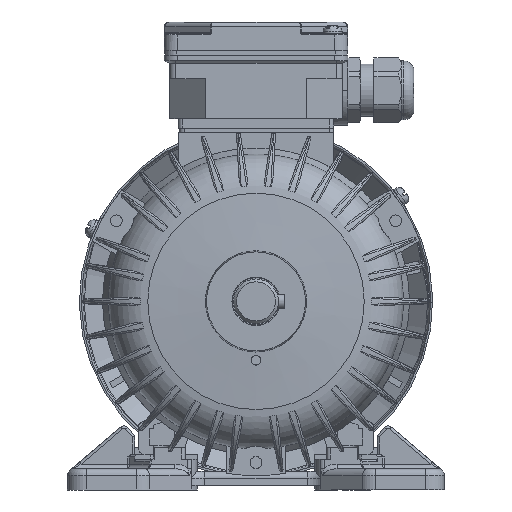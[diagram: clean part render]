
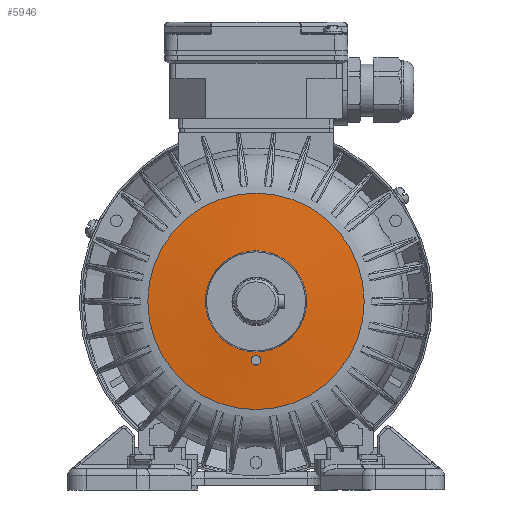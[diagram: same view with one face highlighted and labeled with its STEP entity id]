
A CAD part, left-side view. The second image highlights one B-rep face of the part: STEP entity #5946.
In plain terms, the highlighted conical face has half-angle 85.5 degrees and reference radius 21.472 mm.
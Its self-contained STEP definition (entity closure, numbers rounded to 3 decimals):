
#5946 = ADVANCED_FACE( '', ( #13087, #13088, #13089 ), #13090, .T. );
#13087 = FACE_OUTER_BOUND( '', #36865, .T. );
#13088 = FACE_BOUND( '', #36866, .T. );
#13089 = FACE_BOUND( '', #36867, .T. );
#13090 = CONICAL_SURFACE( '', #36868, 21.472, 1.492 );
#36865 = EDGE_LOOP( '', ( #71741 ) );
#36866 = EDGE_LOOP( '', ( #71742 ) );
#36867 = EDGE_LOOP( '', ( #71743 ) );
#36868 = AXIS2_PLACEMENT_3D( '', #71744, #71745, #71746 );
#71741 = ORIENTED_EDGE( '', *, *, #88188, .T. );
#71742 = ORIENTED_EDGE( '', *, *, #92704, .F. );
#71743 = ORIENTED_EDGE( '', *, *, #91015, .T. );
#71744 = CARTESIAN_POINT( '', ( 0., 6., 0. ) );
#71745 = DIRECTION( '', ( 0., 1., 0. ) );
#71746 = DIRECTION( '', ( 0., 0., 1. ) );
#88188 = EDGE_CURVE( '', #100808, #100808, #100809, .T. );
#91015 = EDGE_CURVE( '', #105494, #105494, #105495, .T. );
#92704 = EDGE_CURVE( '', #107996, #107996, #107997, .T. );
#100808 = VERTEX_POINT( '', #125872 );
#100809 = CIRCLE( '', #125873, 45.912 );
#105494 = VERTEX_POINT( '', #142784 );
#105495 = B_SPLINE_CURVE_WITH_KNOTS( '', 3, ( #142785, #142786, #142787, #142788, #142789, #142790, #142791, #142792, #142793, #142794, #142795, #142796, #142797, #142798, #142799, #142800, #142801, #142802, #142803, #142804, #142805, #142806, #142807, #142808, #142809, #142810, #142811, #142812, #142813, #142814, #142815, #142816, #142817, #142818, #142819, #142820, #142821, #142822, #142823, #142824, #142825, #142826, #142827, #142828, #142829, #142830, #142831, #142832, #142833, #142834, #142835, #142836, #142837, #142838, #142839, #142840 ), .UNSPECIFIED., .T., .F., ( 2, 2, 2, 2, 2, 2, 2, 2, 2, 2, 2, 2, 2, 2, 2, 2, 2, 2, 2, 2, 2, 2, 2, 2, 2, 2, 2, 2, 2, 2 ), ( -0.001, 0., 0., 0.001, 0.001, 0.002, 0.002, 0.003, 0.004, 0.004, 0.004, 0.005, 0.005, 0.005, 0.006, 0.006, 0.007, 0.007, 0.008, 0.008, 0.009, 0.009, 0.009, 0.01, 0.011, 0.011, 0.011, 0.012, 0.013, 0.013 ), .UNSPECIFIED. );
#107996 = VERTEX_POINT( '', #150256 );
#107997 = CIRCLE( '', #150257, 21.472 );
#125872 = CARTESIAN_POINT( '', ( 0., 7.923, -45.912 ) );
#125873 = AXIS2_PLACEMENT_3D( '', #165502, #165503, #165504 );
#142784 = CARTESIAN_POINT( '', ( -1.41, 6.392, -26.418 ) );
#142785 = CARTESIAN_POINT( '', ( -1.223, 6.406, -26.605 ) );
#142786 = CARTESIAN_POINT( '', ( -1.504, 6.385, -26.325 ) );
#142787 = CARTESIAN_POINT( '', ( -1.587, 6.378, -26.224 ) );
#142788 = CARTESIAN_POINT( '', ( -1.732, 6.362, -26.008 ) );
#142789 = CARTESIAN_POINT( '', ( -1.795, 6.353, -25.891 ) );
#142790 = CARTESIAN_POINT( '', ( -1.896, 6.334, -25.65 ) );
#142791 = CARTESIAN_POINT( '', ( -1.934, 6.325, -25.525 ) );
#142792 = CARTESIAN_POINT( '', ( -1.986, 6.305, -25.269 ) );
#142793 = CARTESIAN_POINT( '', ( -2., 6.295, -25.137 ) );
#142794 = CARTESIAN_POINT( '', ( -2.001, 6.264, -24.746 ) );
#142795 = CARTESIAN_POINT( '', ( -1.95, 6.243, -24.483 ) );
#142796 = CARTESIAN_POINT( '', ( -1.752, 6.204, -24.002 ) );
#142797 = CARTESIAN_POINT( '', ( -1.605, 6.186, -23.778 ) );
#142798 = CARTESIAN_POINT( '', ( -1.329, 6.163, -23.5 ) );
#142799 = CARTESIAN_POINT( '', ( -1.227, 6.155, -23.415 ) );
#142800 = CARTESIAN_POINT( '', ( -1.01, 6.143, -23.269 ) );
#142801 = CARTESIAN_POINT( '', ( -0.895, 6.138, -23.207 ) );
#142802 = CARTESIAN_POINT( '', ( -0.654, 6.129, -23.105 ) );
#142803 = CARTESIAN_POINT( '', ( -0.526, 6.126, -23.066 ) );
#142804 = CARTESIAN_POINT( '', ( -0.271, 6.121, -23.014 ) );
#142805 = CARTESIAN_POINT( '', ( -0.141, 6.12, -23.001 ) );
#142806 = CARTESIAN_POINT( '', ( 0.124, 6.12, -22.999 ) );
#142807 = CARTESIAN_POINT( '', ( 0.254, 6.121, -23.012 ) );
#142808 = CARTESIAN_POINT( '', ( 0.51, 6.126, -23.062 ) );
#142809 = CARTESIAN_POINT( '', ( 0.638, 6.129, -23.1 ) );
#142810 = CARTESIAN_POINT( '', ( 0.881, 6.137, -23.199 ) );
#142811 = CARTESIAN_POINT( '', ( 0.996, 6.142, -23.261 ) );
#142812 = CARTESIAN_POINT( '', ( 1.214, 6.155, -23.405 ) );
#142813 = CARTESIAN_POINT( '', ( 1.317, 6.162, -23.489 ) );
#142814 = CARTESIAN_POINT( '', ( 1.502, 6.177, -23.673 ) );
#142815 = CARTESIAN_POINT( '', ( 1.585, 6.185, -23.773 ) );
#142816 = CARTESIAN_POINT( '', ( 1.732, 6.203, -23.991 ) );
#142817 = CARTESIAN_POINT( '', ( 1.795, 6.213, -24.107 ) );
#142818 = CARTESIAN_POINT( '', ( 1.945, 6.242, -24.468 ) );
#142819 = CARTESIAN_POINT( '', ( 1.999, 6.263, -24.73 ) );
#142820 = CARTESIAN_POINT( '', ( 2.001, 6.293, -25.121 ) );
#142821 = CARTESIAN_POINT( '', ( 1.988, 6.304, -25.253 ) );
#142822 = CARTESIAN_POINT( '', ( 1.938, 6.324, -25.509 ) );
#142823 = CARTESIAN_POINT( '', ( 1.901, 6.333, -25.634 ) );
#142824 = CARTESIAN_POINT( '', ( 1.803, 6.352, -25.876 ) );
#142825 = CARTESIAN_POINT( '', ( 1.74, 6.36, -25.994 ) );
#142826 = CARTESIAN_POINT( '', ( 1.597, 6.377, -26.211 ) );
#142827 = CARTESIAN_POINT( '', ( 1.515, 6.384, -26.313 ) );
#142828 = CARTESIAN_POINT( '', ( 1.237, 6.405, -26.594 ) );
#142829 = CARTESIAN_POINT( '', ( 1.017, 6.416, -26.742 ) );
#142830 = CARTESIAN_POINT( '', ( 0.653, 6.427, -26.895 ) );
#142831 = CARTESIAN_POINT( '', ( 0.529, 6.43, -26.933 ) );
#142832 = CARTESIAN_POINT( '', ( 0.272, 6.434, -26.986 ) );
#142833 = CARTESIAN_POINT( '', ( 0.14, 6.435, -26.999 ) );
#142834 = CARTESIAN_POINT( '', ( -0.122, 6.435, -27.001 ) );
#142835 = CARTESIAN_POINT( '', ( -0.252, 6.434, -26.988 ) );
#142836 = CARTESIAN_POINT( '', ( -0.51, 6.431, -26.938 ) );
#142837 = CARTESIAN_POINT( '', ( -0.637, 6.428, -26.9 ) );
#142838 = CARTESIAN_POINT( '', ( -0.999, 6.417, -26.752 ) );
#142839 = CARTESIAN_POINT( '', ( -1.223, 6.406, -26.605 ) );
#142840 = CARTESIAN_POINT( '', ( -1.504, 6.385, -26.325 ) );
#150256 = CARTESIAN_POINT( '', ( 0., 6., -21.472 ) );
#150257 = AXIS2_PLACEMENT_3D( '', #170746, #170747, #170748 );
#165502 = CARTESIAN_POINT( '', ( 0., 7.923, 0. ) );
#165503 = DIRECTION( '', ( 0., -1., 0. ) );
#165504 = DIRECTION( '', ( 0., 0., -1. ) );
#170746 = CARTESIAN_POINT( '', ( 0., 6., 0. ) );
#170747 = DIRECTION( '', ( 0., -1., 0. ) );
#170748 = DIRECTION( '', ( 0., 0., -1. ) );
